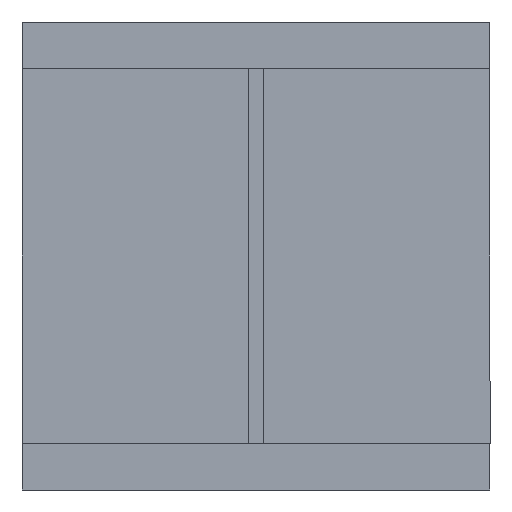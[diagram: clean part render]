
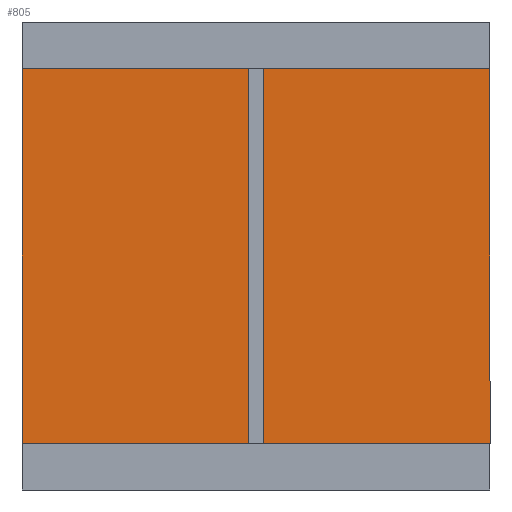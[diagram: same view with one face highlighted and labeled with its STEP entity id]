
A CAD part, front view. The second image highlights one B-rep face of the part: STEP entity #805.
In plain terms, the highlighted planar face has unit normal (0, -1, 0).
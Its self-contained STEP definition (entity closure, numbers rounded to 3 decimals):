
#3 = EDGE_CURVE ( 'NONE', #762, #27, #1060, .T. ) ;
#9 = VERTEX_POINT ( 'NONE', #624 ) ;
#16 = VERTEX_POINT ( 'NONE', #1257 ) ;
#27 = VERTEX_POINT ( 'NONE', #959 ) ;
#79 = CARTESIAN_POINT ( 'NONE',  ( -490., 520., 900. ) ) ;
#80 = VECTOR ( 'NONE', #1451, 1000. ) ;
#99 = VECTOR ( 'NONE', #275, 1000. ) ;
#106 = ORIENTED_EDGE ( 'NONE', *, *, #1291, .F. ) ;
#121 = VECTOR ( 'NONE', #1374, 1000. ) ;
#124 = EDGE_CURVE ( 'NONE', #1082, #338, #213, .T. ) ;
#146 = AXIS2_PLACEMENT_3D ( 'NONE', #808, #327, #568 ) ;
#157 = CARTESIAN_POINT ( 'NONE',  ( -500., 520., 900. ) ) ;
#187 = DIRECTION ( 'NONE',  ( -1., 0., 0. ) ) ;
#192 = ORIENTED_EDGE ( 'NONE', *, *, #633, .F. ) ;
#196 = VECTOR ( 'NONE', #1255, 1000. ) ;
#206 = VERTEX_POINT ( 'NONE', #510 ) ;
#213 = LINE ( 'NONE', #221, #121 ) ;
#221 = CARTESIAN_POINT ( 'NONE',  ( -490., 520., 1000. ) ) ;
#223 = EDGE_CURVE ( 'NONE', #338, #233, #721, .T. ) ;
#233 = VERTEX_POINT ( 'NONE', #382 ) ;
#243 = VECTOR ( 'NONE', #891, 1000. ) ;
#259 = ORIENTED_EDGE ( 'NONE', *, *, #124, .F. ) ;
#275 = DIRECTION ( 'NONE',  ( 1., 0., 0. ) ) ;
#279 = LINE ( 'NONE', #611, #738 ) ;
#282 = CARTESIAN_POINT ( 'NONE',  ( 489.609, 520., 1000. ) ) ;
#306 = CARTESIAN_POINT ( 'NONE',  ( -490., 520., 100. ) ) ;
#327 = DIRECTION ( 'NONE',  ( 0., -1., 0. ) ) ;
#334 = LINE ( 'NONE', #799, #196 ) ;
#338 = VERTEX_POINT ( 'NONE', #953 ) ;
#341 = FACE_OUTER_BOUND ( 'NONE', #1336, .T. ) ;
#354 = EDGE_CURVE ( 'NONE', #233, #762, #968, .T. ) ;
#382 = CARTESIAN_POINT ( 'NONE',  ( 489.609, 520., 1000. ) ) ;
#409 = VERTEX_POINT ( 'NONE', #1051 ) ;
#428 = LINE ( 'NONE', #1212, #1198 ) ;
#433 = ORIENTED_EDGE ( 'NONE', *, *, #1270, .F. ) ;
#435 = LINE ( 'NONE', #306, #243 ) ;
#437 = ORIENTED_EDGE ( 'NONE', *, *, #354, .F. ) ;
#456 = LINE ( 'NONE', #588, #1447 ) ;
#475 = CARTESIAN_POINT ( 'NONE',  ( -500., 520., 100. ) ) ;
#495 = DIRECTION ( 'NONE',  ( -1., 0., 0. ) ) ;
#496 = LINE ( 'NONE', #518, #1346 ) ;
#510 = CARTESIAN_POINT ( 'NONE',  ( 489.609, 520., 100. ) ) ;
#513 = CARTESIAN_POINT ( 'NONE',  ( 489.609, 520., 900. ) ) ;
#518 = CARTESIAN_POINT ( 'NONE',  ( -490., 520., 900. ) ) ;
#524 = VECTOR ( 'NONE', #1156, 1000. ) ;
#568 = DIRECTION ( 'NONE',  ( 0., 0., -1. ) ) ;
#572 = EDGE_CURVE ( 'NONE', #409, #9, #334, .T. ) ;
#582 = ORIENTED_EDGE ( 'NONE', *, *, #223, .F. ) ;
#588 = CARTESIAN_POINT ( 'NONE',  ( 500., 520., 900. ) ) ;
#611 = CARTESIAN_POINT ( 'NONE',  ( 500., 520., 100. ) ) ;
#624 = CARTESIAN_POINT ( 'NONE',  ( -490., 520., 0. ) ) ;
#633 = EDGE_CURVE ( 'NONE', #634, #1082, #496, .T. ) ;
#634 = VERTEX_POINT ( 'NONE', #157 ) ;
#666 = ORIENTED_EDGE ( 'NONE', *, *, #1323, .F. ) ;
#675 = PLANE ( 'NONE',  #146 ) ;
#682 = DIRECTION ( 'NONE',  ( 0., 0., 1. ) ) ;
#697 = CARTESIAN_POINT ( 'NONE',  ( -500., 520., 900. ) ) ;
#721 = LINE ( 'NONE', #957, #524 ) ;
#738 = VECTOR ( 'NONE', #495, 1000. ) ;
#762 = VERTEX_POINT ( 'NONE', #1479 ) ;
#799 = CARTESIAN_POINT ( 'NONE',  ( -490., 520., 0. ) ) ;
#805 = ADVANCED_FACE ( 'NONE', ( #341 ), #675, .T. ) ;
#808 = CARTESIAN_POINT ( 'NONE',  ( 0., 520., 0. ) ) ;
#811 = ORIENTED_EDGE ( 'NONE', *, *, #3, .F. ) ;
#859 = ORIENTED_EDGE ( 'NONE', *, *, #1229, .F. ) ;
#891 = DIRECTION ( 'NONE',  ( 0., 0., 1. ) ) ;
#930 = CARTESIAN_POINT ( 'NONE',  ( 500., 520., 100. ) ) ;
#953 = CARTESIAN_POINT ( 'NONE',  ( -490., 520., 1000. ) ) ;
#957 = CARTESIAN_POINT ( 'NONE',  ( -490., 520., 1000. ) ) ;
#959 = CARTESIAN_POINT ( 'NONE',  ( 500., 520., 900. ) ) ;
#968 = LINE ( 'NONE', #282, #1140 ) ;
#970 = DIRECTION ( 'NONE',  ( 1., 0., 0. ) ) ;
#978 = CARTESIAN_POINT ( 'NONE',  ( 489.609, 520., 100. ) ) ;
#1000 = LINE ( 'NONE', #978, #80 ) ;
#1050 = VERTEX_POINT ( 'NONE', #475 ) ;
#1051 = CARTESIAN_POINT ( 'NONE',  ( 489.609, 520., 0. ) ) ;
#1052 = VERTEX_POINT ( 'NONE', #930 ) ;
#1059 = DIRECTION ( 'NONE',  ( 0., 0., -1. ) ) ;
#1060 = LINE ( 'NONE', #513, #99 ) ;
#1082 = VERTEX_POINT ( 'NONE', #79 ) ;
#1086 = EDGE_CURVE ( 'NONE', #16, #1050, #428, .T. ) ;
#1140 = VECTOR ( 'NONE', #1059, 1000. ) ;
#1156 = DIRECTION ( 'NONE',  ( 1., 0., 0. ) ) ;
#1198 = VECTOR ( 'NONE', #187, 1000. ) ;
#1212 = CARTESIAN_POINT ( 'NONE',  ( -500., 520., 100. ) ) ;
#1229 = EDGE_CURVE ( 'NONE', #9, #16, #435, .T. ) ;
#1245 = VECTOR ( 'NONE', #682, 1000. ) ;
#1255 = DIRECTION ( 'NONE',  ( -1., 0., 0. ) ) ;
#1257 = CARTESIAN_POINT ( 'NONE',  ( -490., 520., 100. ) ) ;
#1260 = LINE ( 'NONE', #697, #1245 ) ;
#1270 = EDGE_CURVE ( 'NONE', #1050, #634, #1260, .T. ) ;
#1278 = ORIENTED_EDGE ( 'NONE', *, *, #1086, .F. ) ;
#1291 = EDGE_CURVE ( 'NONE', #27, #1052, #456, .T. ) ;
#1323 = EDGE_CURVE ( 'NONE', #1052, #206, #279, .T. ) ;
#1336 = EDGE_LOOP ( 'NONE', ( #433, #1278, #859, #1410, #1357, #666, #106, #811, #437, #582, #259, #192 ) ) ;
#1346 = VECTOR ( 'NONE', #970, 1000. ) ;
#1357 = ORIENTED_EDGE ( 'NONE', *, *, #1422, .F. ) ;
#1374 = DIRECTION ( 'NONE',  ( 0., 0., 1. ) ) ;
#1410 = ORIENTED_EDGE ( 'NONE', *, *, #572, .F. ) ;
#1422 = EDGE_CURVE ( 'NONE', #206, #409, #1000, .T. ) ;
#1447 = VECTOR ( 'NONE', #1480, 1000. ) ;
#1451 = DIRECTION ( 'NONE',  ( 0., 0., -1. ) ) ;
#1479 = CARTESIAN_POINT ( 'NONE',  ( 489.609, 520., 900. ) ) ;
#1480 = DIRECTION ( 'NONE',  ( 0., 0., -1. ) ) ;
